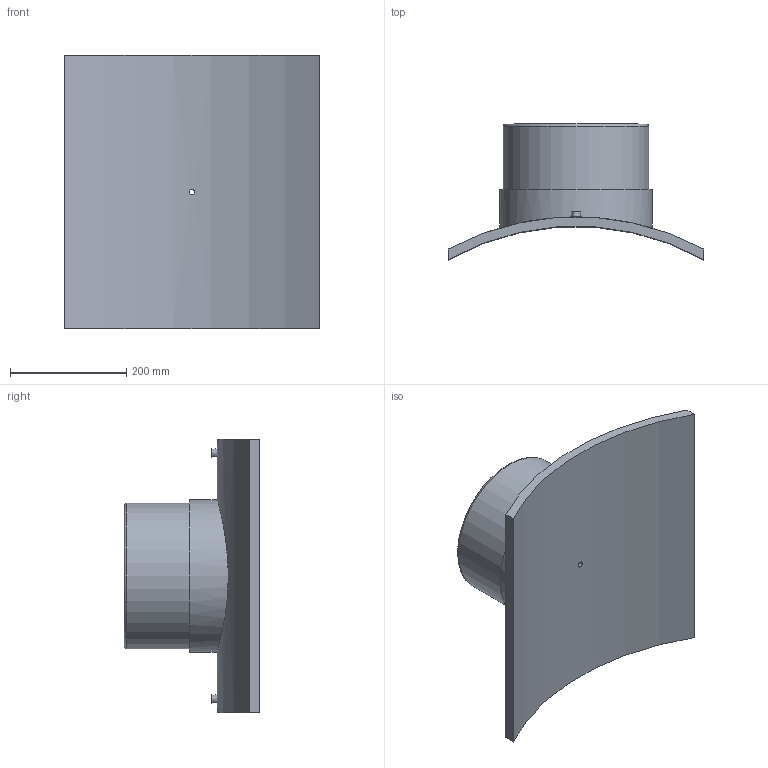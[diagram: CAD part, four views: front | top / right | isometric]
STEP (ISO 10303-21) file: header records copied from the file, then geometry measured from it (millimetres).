
FILE_DESCRIPTION(/* description */ ('PLASSON BRANCH SADDLE 900x250'),/* implementation_level */ '2;1');
FILE_NAME(/* name */ 'C:\Dropbox\KIMPROJECTS-Inventor 2019\99-16-3568-Processing\ElectroFusion Fittings\495803\stp\495803900250T.stp',/* time_stamp */ '2024-04-04T11:50:06+02:00',/* author */ ('KIM'),/* organization */ (''),/* preprocessor_version */ 'ST-DEVELOPER v17.2',/* originating_system */ 'Autodesk Inventor 2019',/* authorisation */ '');
FILE_SCHEMA (('AUTOMOTIVE_DESIGN { 1 0 10303 214 3 1 1 }'));
Length unit declared in the file: millimetre
Products named in the file (1): 495803900250T
Bounding box: 440 x 233.44 x 470 mm (x, y, z)
Volume: 6692673.6 mm3; surface area: 708157.3 mm2
Topology: 1 solids, 1 shells, 29 faces, 60 edges, 43 vertices
Faces by surface type: plane 13, cylinder 12, torus 2, cone 2
Full cylindrical faces by diameter (mm): 4 x2, 9.6 x1, 10 x2, 16 x1, 200 x1, 250 x1, 262.5 x1
Entity records: 1086 total; most frequent: CARTESIAN_POINT 400, DIRECTION 139, ORIENTED_EDGE 120, EDGE_CURVE 60, AXIS2_PLACEMENT_3D 60, VERTEX_POINT 43, EDGE_LOOP 41, CIRCLE 30
